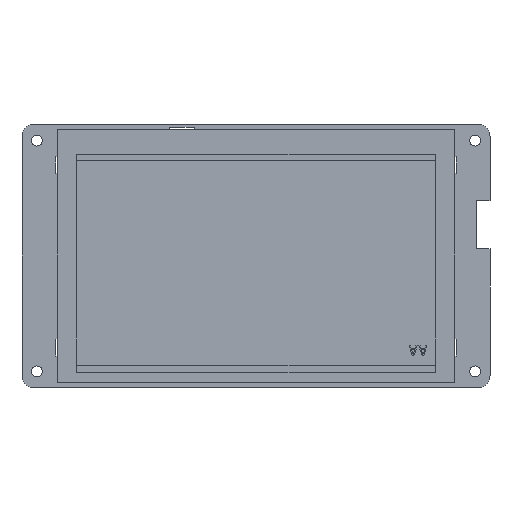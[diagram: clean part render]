
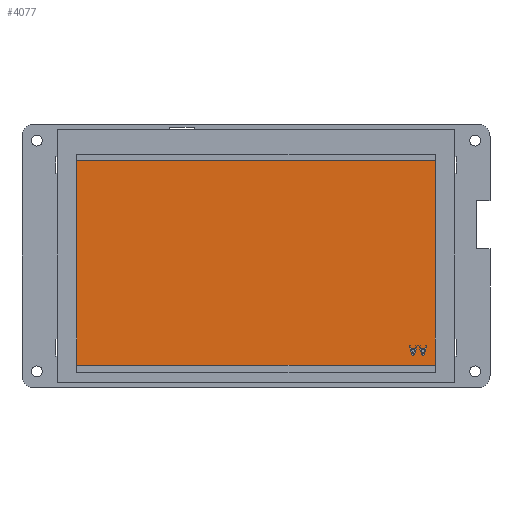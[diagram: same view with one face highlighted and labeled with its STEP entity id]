
A CAD part, front view. The second image highlights one B-rep face of the part: STEP entity #4077.
In plain terms, the highlighted planar face has unit normal (0, -1, 0).
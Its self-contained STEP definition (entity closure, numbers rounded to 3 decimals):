
#755=DIRECTION('',(0.,0.,-1.));
#756=VECTOR('',#755,62.83);
#757=CARTESIAN_POINT('',(55.43,0.5,29.29));
#758=LINE('',#757,#756);
#759=DIRECTION('',(-1.,0.,0.));
#760=VECTOR('',#759,110.88);
#761=CARTESIAN_POINT('',(55.43,0.5,-33.54));
#762=LINE('',#761,#760);
#763=DIRECTION('',(0.,0.,1.));
#764=VECTOR('',#763,62.83);
#765=CARTESIAN_POINT('',(-55.45,0.5,-33.54));
#766=LINE('',#765,#764);
#767=DIRECTION('',(1.,0.,0.));
#768=VECTOR('',#767,110.88);
#769=CARTESIAN_POINT('',(-55.45,0.5,29.29));
#770=LINE('',#769,#768);
#771=DIRECTION('',(0.316,0.,-0.949));
#772=VECTOR('',#771,3.162);
#773=CARTESIAN_POINT('',(49.93,0.5,-27.54));
#774=LINE('',#773,#772);
#775=DIRECTION('',(0.316,0.,0.949));
#776=VECTOR('',#775,3.162);
#777=CARTESIAN_POINT('',(51.43,0.5,-30.54));
#778=LINE('',#777,#776);
#779=DIRECTION('',(-0.31,0.,-0.951));
#780=VECTOR('',#779,0.806);
#781=CARTESIAN_POINT('',(52.055,0.5,-27.54));
#782=LINE('',#781,#780);
#783=DIRECTION('',(-0.31,0.,0.951));
#784=VECTOR('',#783,0.806);
#785=CARTESIAN_POINT('',(50.555,0.5,-28.306));
#786=LINE('',#785,#784);
#787=DIRECTION('',(0.316,0.,-0.949));
#788=VECTOR('',#787,3.162);
#789=CARTESIAN_POINT('',(46.93,0.5,-27.54));
#790=LINE('',#789,#788);
#791=DIRECTION('',(0.316,0.,0.949));
#792=VECTOR('',#791,3.162);
#793=CARTESIAN_POINT('',(48.43,0.5,-30.54));
#794=LINE('',#793,#792);
#795=DIRECTION('',(-0.31,0.,-0.951));
#796=VECTOR('',#795,0.806);
#797=CARTESIAN_POINT('',(49.055,0.5,-27.54));
#798=LINE('',#797,#796);
#799=DIRECTION('',(-0.31,0.,0.951));
#800=VECTOR('',#799,0.806);
#801=CARTESIAN_POINT('',(47.555,0.5,-28.306));
#802=LINE('',#801,#800);
#835=DIRECTION('',(1.,0.,0.));
#836=VECTOR('',#835,0.375);
#837=CARTESIAN_POINT('',(49.93,0.5,-27.54));
#838=LINE('',#837,#836);
#851=DIRECTION('',(1.,0.,0.));
#852=VECTOR('',#851,1.25);
#853=CARTESIAN_POINT('',(50.555,0.5,-28.306));
#854=LINE('',#853,#852);
#867=DIRECTION('',(1.,0.,0.));
#868=VECTOR('',#867,0.375);
#869=CARTESIAN_POINT('',(52.055,0.5,-27.54));
#870=LINE('',#869,#868);
#883=DIRECTION('',(-1.,0.,0.));
#884=VECTOR('',#883,0.5);
#885=CARTESIAN_POINT('',(51.43,0.5,-30.54));
#886=LINE('',#885,#884);
#951=DIRECTION('',(1.,0.,0.));
#952=VECTOR('',#951,0.375);
#953=CARTESIAN_POINT('',(46.93,0.5,-27.54));
#954=LINE('',#953,#952);
#967=DIRECTION('',(1.,0.,0.));
#968=VECTOR('',#967,1.25);
#969=CARTESIAN_POINT('',(47.555,0.5,-28.306));
#970=LINE('',#969,#968);
#983=DIRECTION('',(1.,0.,0.));
#984=VECTOR('',#983,0.375);
#985=CARTESIAN_POINT('',(49.055,0.5,-27.54));
#986=LINE('',#985,#984);
#999=DIRECTION('',(-1.,0.,0.));
#1000=VECTOR('',#999,0.5);
#1001=CARTESIAN_POINT('',(48.43,0.5,-30.54));
#1002=LINE('',#1001,#1000);
#2049=CARTESIAN_POINT('',(55.43,0.5,29.29));
#2050=CARTESIAN_POINT('',(55.43,0.5,-33.54));
#2051=VERTEX_POINT('',#2049);
#2052=VERTEX_POINT('',#2050);
#2053=CARTESIAN_POINT('',(-55.45,0.5,-33.54));
#2054=VERTEX_POINT('',#2053);
#2055=CARTESIAN_POINT('',(-55.45,0.5,29.29));
#2056=VERTEX_POINT('',#2055);
#2057=CARTESIAN_POINT('',(49.93,0.5,-27.54));
#2058=CARTESIAN_POINT('',(50.93,0.5,-30.54));
#2059=VERTEX_POINT('',#2057);
#2060=VERTEX_POINT('',#2058);
#2061=CARTESIAN_POINT('',(51.43,0.5,-30.54));
#2062=VERTEX_POINT('',#2061);
#2063=CARTESIAN_POINT('',(52.43,0.5,-27.54));
#2064=VERTEX_POINT('',#2063);
#2065=CARTESIAN_POINT('',(52.055,0.5,-27.54));
#2066=VERTEX_POINT('',#2065);
#2067=CARTESIAN_POINT('',(51.805,0.5,-28.306));
#2068=VERTEX_POINT('',#2067);
#2069=CARTESIAN_POINT('',(50.555,0.5,-28.306));
#2070=VERTEX_POINT('',#2069);
#2071=CARTESIAN_POINT('',(50.305,0.5,-27.54));
#2072=VERTEX_POINT('',#2071);
#2079=CARTESIAN_POINT('',(46.93,0.5,-27.54));
#2080=CARTESIAN_POINT('',(47.93,0.5,-30.54));
#2081=VERTEX_POINT('',#2079);
#2082=VERTEX_POINT('',#2080);
#2083=CARTESIAN_POINT('',(48.43,0.5,-30.54));
#2084=VERTEX_POINT('',#2083);
#2085=CARTESIAN_POINT('',(49.43,0.5,-27.54));
#2086=VERTEX_POINT('',#2085);
#2087=CARTESIAN_POINT('',(49.055,0.5,-27.54));
#2088=VERTEX_POINT('',#2087);
#2089=CARTESIAN_POINT('',(48.805,0.5,-28.306));
#2090=VERTEX_POINT('',#2089);
#2091=CARTESIAN_POINT('',(47.555,0.5,-28.306));
#2092=VERTEX_POINT('',#2091);
#2093=CARTESIAN_POINT('',(47.305,0.5,-27.54));
#2094=VERTEX_POINT('',#2093);
#4030=CARTESIAN_POINT('',(-0.01,0.5,-2.125));
#4031=DIRECTION('',(0.,1.,0.));
#4032=DIRECTION('',(-1.,0.,0.));
#4033=AXIS2_PLACEMENT_3D('',#4030,#4031,#4032);
#4034=PLANE('',#4033);
#4035=ORIENTED_EDGE('',*,*,#3976,.T.);
#4036=ORIENTED_EDGE('',*,*,#3991,.T.);
#4037=ORIENTED_EDGE('',*,*,#4008,.T.);
#4038=ORIENTED_EDGE('',*,*,#4021,.T.);
#4039=EDGE_LOOP('',(#4035,#4036,#4037,#4038));
#4040=FACE_OUTER_BOUND('',#4039,.F.);
#4042=ORIENTED_EDGE('',*,*,#4041,.T.);
#4044=ORIENTED_EDGE('',*,*,#4043,.F.);
#4046=ORIENTED_EDGE('',*,*,#4045,.T.);
#4048=ORIENTED_EDGE('',*,*,#4047,.F.);
#4050=ORIENTED_EDGE('',*,*,#4049,.T.);
#4052=ORIENTED_EDGE('',*,*,#4051,.F.);
#4054=ORIENTED_EDGE('',*,*,#4053,.T.);
#4056=ORIENTED_EDGE('',*,*,#4055,.F.);
#4057=EDGE_LOOP('',(#4042,#4044,#4046,#4048,#4050,#4052,#4054,#4056));
#4058=FACE_BOUND('',#4057,.F.);
#4060=ORIENTED_EDGE('',*,*,#4059,.T.);
#4062=ORIENTED_EDGE('',*,*,#4061,.F.);
#4064=ORIENTED_EDGE('',*,*,#4063,.T.);
#4066=ORIENTED_EDGE('',*,*,#4065,.F.);
#4068=ORIENTED_EDGE('',*,*,#4067,.T.);
#4070=ORIENTED_EDGE('',*,*,#4069,.F.);
#4072=ORIENTED_EDGE('',*,*,#4071,.T.);
#4074=ORIENTED_EDGE('',*,*,#4073,.F.);
#4075=EDGE_LOOP('',(#4060,#4062,#4064,#4066,#4068,#4070,#4072,#4074));
#4076=FACE_BOUND('',#4075,.F.);
#3976=EDGE_CURVE('',#2051,#2052,#758,.T.);
#3991=EDGE_CURVE('',#2052,#2054,#762,.T.);
#4008=EDGE_CURVE('',#2054,#2056,#766,.T.);
#4021=EDGE_CURVE('',#2056,#2051,#770,.T.);
#4041=EDGE_CURVE('',#2059,#2060,#774,.T.);
#4043=EDGE_CURVE('',#2062,#2060,#886,.T.);
#4045=EDGE_CURVE('',#2062,#2064,#778,.T.);
#4047=EDGE_CURVE('',#2066,#2064,#870,.T.);
#4049=EDGE_CURVE('',#2066,#2068,#782,.T.);
#4051=EDGE_CURVE('',#2070,#2068,#854,.T.);
#4053=EDGE_CURVE('',#2070,#2072,#786,.T.);
#4055=EDGE_CURVE('',#2059,#2072,#838,.T.);
#4059=EDGE_CURVE('',#2081,#2082,#790,.T.);
#4061=EDGE_CURVE('',#2084,#2082,#1002,.T.);
#4063=EDGE_CURVE('',#2084,#2086,#794,.T.);
#4065=EDGE_CURVE('',#2088,#2086,#986,.T.);
#4067=EDGE_CURVE('',#2088,#2090,#798,.T.);
#4069=EDGE_CURVE('',#2092,#2090,#970,.T.);
#4071=EDGE_CURVE('',#2092,#2094,#802,.T.);
#4073=EDGE_CURVE('',#2081,#2094,#954,.T.);
#4077=ADVANCED_FACE('',(#4040,#4058,#4076),#4034,.F.);
